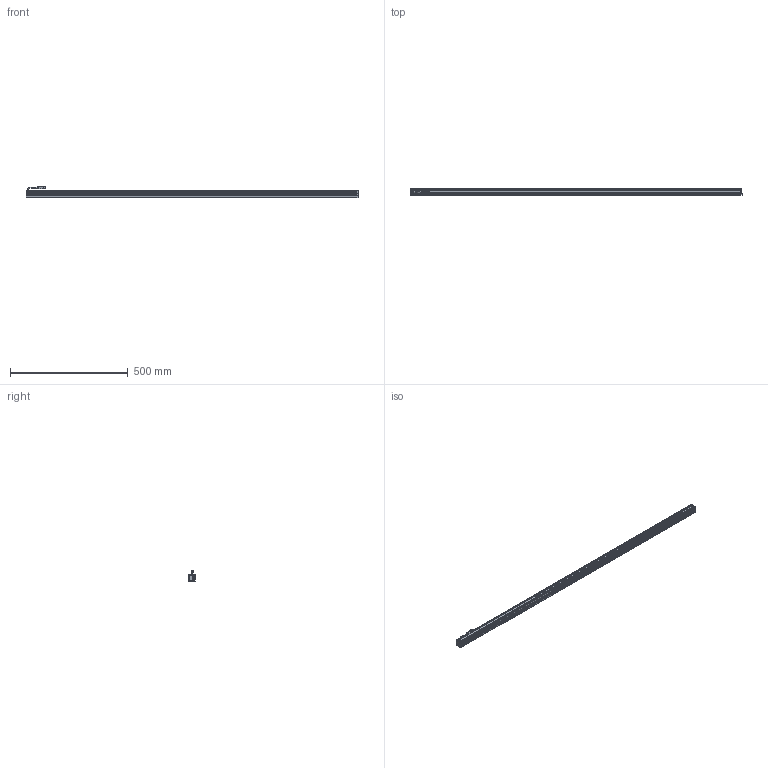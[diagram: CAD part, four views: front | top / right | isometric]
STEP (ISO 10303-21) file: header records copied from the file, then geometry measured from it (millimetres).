
FILE_DESCRIPTION (( 'STEP AP203' ), '1' );
FILE_NAME ('CK-BL140728.STEP', '2026-01-02T09:37:45', ( '' ), ( '' ), 'SwSTEP 2.0', 'SolidWorks 2022', '' );
FILE_SCHEMA (( 'CONFIG_CONTROL_DESIGN' ));
Length unit declared in the file: millimetre
Products named in the file (6): CK-BL140728; CK-BL140728-001A; CK-BL140728-003A; CK-BL140728-002A; 光源线-01; 十字沉头螺丝 M2x10
Assembly tree (11 placements, depth 2):
  CK-BL140728
    CK-BL140728-001A
    CK-BL140728-002A  x2
    CK-BL140728-003A
    光源线-01
    十字沉头螺丝 M2x10  x6
Bounding box: 1407 x 27 x 47.34 mm (x, y, z)
Volume: 447294.8 mm3; surface area: 391134.6 mm2
Topology: 13 solids, 13 shells, 575 faces, 1494 edges, 950 vertices
Faces by surface type: plane 337, cylinder 172, cone 46, bspline 20
Entity records: 13997 total; most frequent: CARTESIAN_POINT 2782, ORIENTED_EDGE 2202, DIRECTION 2163, EDGE_CURVE 1101, LINE 781, VECTOR 781, VERTEX_POINT 714, AXIS2_PLACEMENT_3D 691
